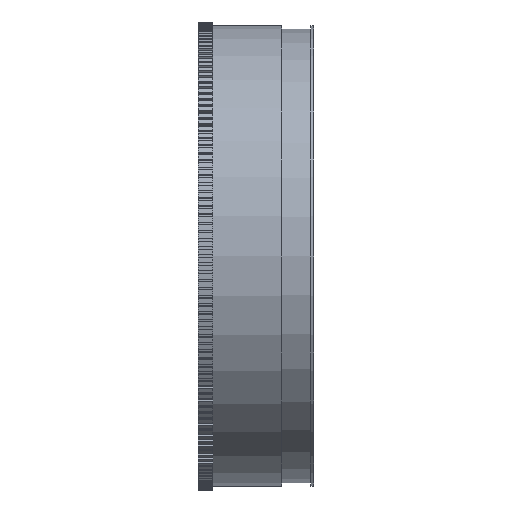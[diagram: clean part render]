
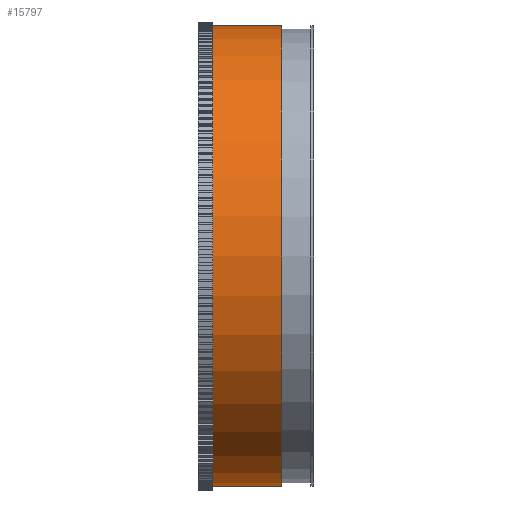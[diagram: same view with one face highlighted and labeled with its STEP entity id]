
A CAD part, front view. The second image highlights one B-rep face of the part: STEP entity #15797.
In plain terms, the highlighted cylindrical face has radius 160 mm (diameter 320 mm), a full revolution.
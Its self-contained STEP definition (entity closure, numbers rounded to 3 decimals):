
#3843=CYLINDRICAL_SURFACE('',#17052,160.);
#4527=FACE_BOUND('',#6233,.T.);
#5316=FACE_OUTER_BOUND('',#6232,.T.);
#6232=EDGE_LOOP('',(#15002));
#6233=EDGE_LOOP('',(#15003));
#6667=CIRCLE('',#16970,160.);
#6693=CIRCLE('',#17051,160.);
#8205=VERTEX_POINT('',#25825);
#8231=VERTEX_POINT('',#25932);
#10463=EDGE_CURVE('',#8205,#8205,#6667,.T.);
#10489=EDGE_CURVE('',#8231,#8231,#6693,.T.);
#15002=ORIENTED_EDGE('',*,*,#10489,.F.);
#15003=ORIENTED_EDGE('',*,*,#10463,.T.);
#15797=ADVANCED_FACE('',(#5316,#4527),#3843,.T.);
#16970=AXIS2_PLACEMENT_3D('',#25826,#21182,#21183);
#17051=AXIS2_PLACEMENT_3D('',#25933,#21344,#21345);
#17052=AXIS2_PLACEMENT_3D('',#25934,#21346,#21347);
#21182=DIRECTION('center_axis',(1.,0.,0.));
#21183=DIRECTION('ref_axis',(0.,1.,0.));
#21344=DIRECTION('center_axis',(1.,0.,0.));
#21345=DIRECTION('ref_axis',(0.,1.,0.));
#21346=DIRECTION('center_axis',(1.,0.,0.));
#21347=DIRECTION('ref_axis',(0.,1.,0.));
#25825=CARTESIAN_POINT('',(-30.,160.,0.));
#25826=CARTESIAN_POINT('Origin',(-30.,0.,0.));
#25932=CARTESIAN_POINT('',(18.,160.,0.));
#25933=CARTESIAN_POINT('Origin',(18.,0.,0.));
#25934=CARTESIAN_POINT('Origin',(-6.,0.,0.));
